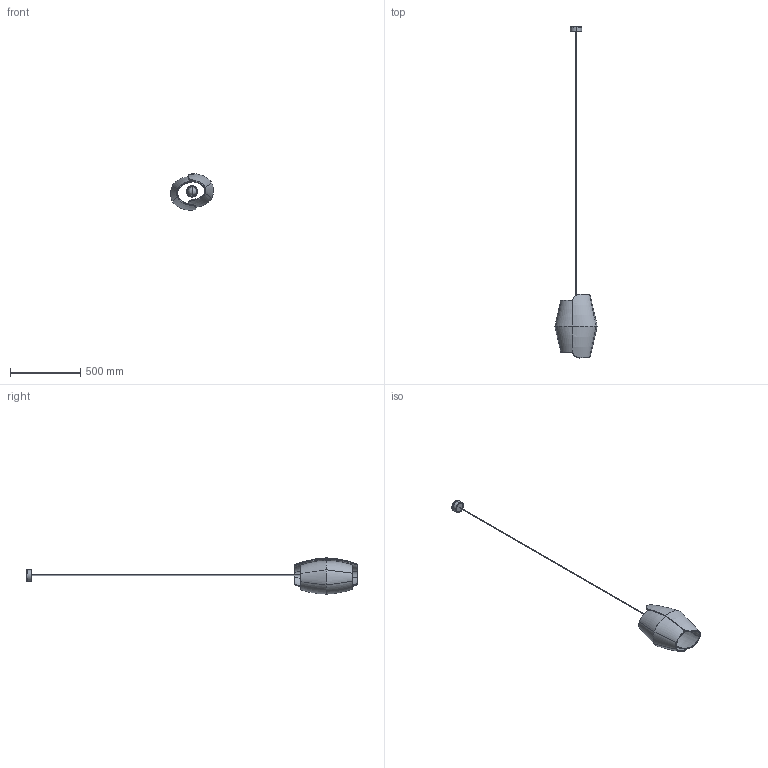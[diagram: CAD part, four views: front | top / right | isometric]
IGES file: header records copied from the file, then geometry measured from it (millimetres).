
Start section: SolidWorks IGES file using analytic representation for surfaces
Global section: file name: C:\Users\liamb\Dropbox\Rakumba Marketing - Design\LIGHTWEIGHT CAD MODEL LIBRARY\Exported File Formats FOR CLIENT USE - Public\Volute\Volute - Pendant\Volute - Pendant.IGS; native system: SolidWorks 2017; preprocessor: SolidWorks 2017; author: liamb; date: 230331.123242; units: millimetre
Bounding box: 301.7 x 2358.28 x 257.69 mm (x, y, z)
Surface area: 796072.7 mm2 (no closed solid volume)
Topology: 0 solids, 0 shells, 66 faces, 2204 edges, 2203 vertices
Faces by surface type: bspline 52, revolution 14
